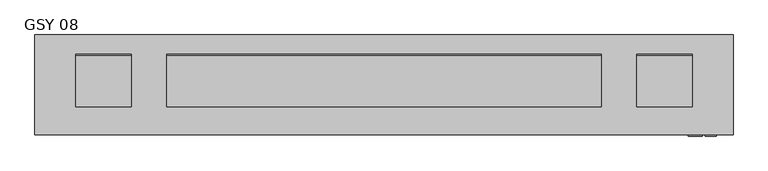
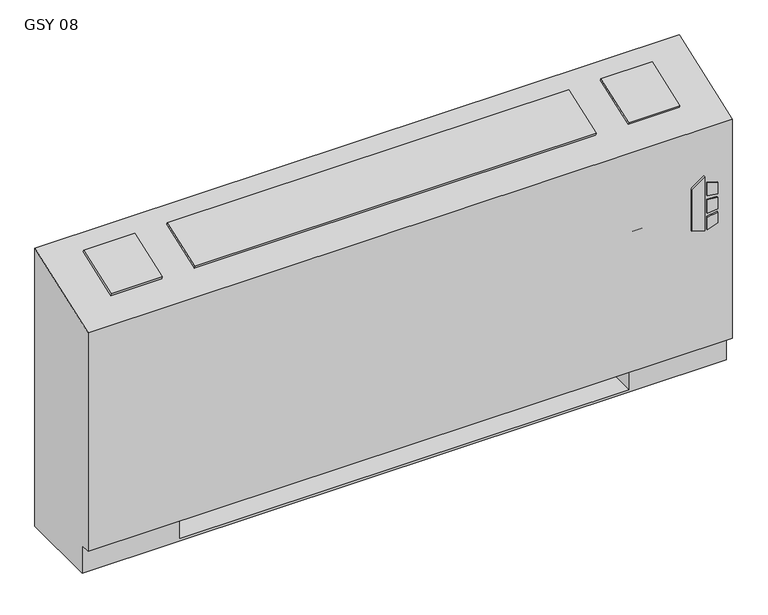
"""IFC4 building model written with IfcOpenShell, lengths in millimetres: proxy geometry, Vertical_Fan_Coil_Unit_-_GSY_-_IEC_-_2-Pipe_TS-FR_RH_2022 : GSY 08."""

import ifcopenshell
import ifcopenshell.guid

model = None  # the IFC model being written
_history = None  # IfcOwnerHistory: only IFC2X3 demands one
_inside = {}  # id of a spatial element -> (the spatial element, [elements in it])
_under = {}  # id of a project, library or spatial element -> (it, [spatial elements below it])
_declared = {}  # id of a project -> (the project, [libraries it declares])
_typed = {}  # id of a type object -> (the type object, [elements of that type])
_made_of = {}  # id of a material, layer set ... -> (it, [elements and type objects made of it])


def new_model(schema):
    """Start an empty IFC model of exactly this schema.

    Asked for "IFC4X3", IfcOpenShell would pick the latest addendum, in which some entities
    have other attributes; the version numbers below select the first issue.
    IFC2X3 requires an IfcOwnerHistory on every rooted entity: one is made here for all.
    """
    global model, _history
    if schema == "IFC4X3":
        model = ifcopenshell.file(schema_version=(4, 3, 0, 0))
    else:
        model = ifcopenshell.file(schema=schema)
    _inside.clear()
    _under.clear()
    _declared.clear()
    _typed.clear()
    _made_of.clear()
    _history = None
    if model.schema == "IFC2X3":
        org = make("IfcOrganization", Name="unknown")
        user = make(
            "IfcPersonAndOrganization",
            ThePerson=make("IfcPerson", FamilyName="unknown"),
            TheOrganization=org,
        )
        app = make(
            "IfcApplication",
            ApplicationDeveloper=org,
            Version="unknown",
            ApplicationFullName="unknown",
            ApplicationIdentifier="unknown",
        )
        _history = make(
            "IfcOwnerHistory",
            OwningUser=user,
            OwningApplication=app,
            ChangeAction="ADDED",
            CreationDate=0,
        )
    return model


def make(cls, **values):
    """One entity of the class cls with the attributes given. An attribute that is None is left unset."""
    return model.create_entity(
        cls, **{name: value for name, value in values.items() if value is not None}
    )


def rooted(cls, **values):
    """An entity with a GlobalId (a new one), such as an element, a storey or a relation."""
    return make(cls, GlobalId=ifcopenshell.guid.new(), OwnerHistory=_history, **values)


def si_unit(unit_type, name, prefix=None):
    """IfcSIUnit, for example si_unit("LENGTHUNIT", "METRE", prefix="MILLI")."""
    return make("IfcSIUnit", UnitType=unit_type, Prefix=prefix, Name=name)


def assignment(units):
    """IfcUnitAssignment: the units of a project."""
    return None if units is None else make("IfcUnitAssignment", Units=units)


def point(xyz):
    """IfcCartesianPoint."""
    return None if xyz is None else make("IfcCartesianPoint", Coordinates=xyz)


def direction(xyz):
    """IfcDirection."""
    return None if xyz is None else make("IfcDirection", DirectionRatios=xyz)


def frame(location, z_axis=None, x_axis=None):
    """IfcAxis2Placement3D, a coordinate frame: its origin and axes. An axis left out is left unset."""
    return make(
        "IfcAxis2Placement3D",
        Location=point(location),
        Axis=direction(z_axis),
        RefDirection=direction(x_axis),
    )


def frame_2d(location, x_axis=None):
    """IfcAxis2Placement2D, a coordinate frame in the plane: its origin and x axis."""
    return make(
        "IfcAxis2Placement2D", Location=point(location), RefDirection=direction(x_axis)
    )


def origin():
    """The frame at (0, 0, 0) with its axes left unset."""
    return frame((0.0, 0.0, 0.0))


def place(relative_to, where):
    """IfcLocalPlacement: puts the frame where relative to a parent placement (None: the world)."""
    return make(
        "IfcLocalPlacement", PlacementRelTo=relative_to, RelativePlacement=where
    )


def context(
    kind, dimensions, precision=None, world=None, true_north=None, identifier=None
):
    """IfcGeometricRepresentationContext, for example the 3D "Model" context."""
    return make(
        "IfcGeometricRepresentationContext",
        ContextIdentifier=identifier,
        ContextType=kind,
        CoordinateSpaceDimension=dimensions,
        Precision=precision,
        WorldCoordinateSystem=world,
        TrueNorth=true_north,
    )


def project(units=None, contexts=None):
    """IfcProject with its units and contexts."""
    return rooted(
        "IfcProject",
        Name="project",
        RepresentationContexts=contexts,
        UnitsInContext=assignment(units),
    )


def spatial(cls, under=None, at=None, **own):
    """A site, building, storey or space (cls), placed at a placement, below another one or the project."""
    s = rooted(cls, ObjectPlacement=at, **own)
    if under is not None:
        _under.setdefault(under.id(), (under, []))[1].append(s)
    return s


def polyline(points):
    """IfcPolyline through the points."""
    return make("IfcPolyline", Points=[point(p) for p in points])


def circle_curve(where, radius):
    """IfcCircle in the frame where."""
    return make("IfcCircle", Position=where, Radius=radius)


def trimmed(basis, trim1, trim2, sense, master):
    """IfcTrimmedCurve: the piece of a basis curve between two trims."""
    return make(
        "IfcTrimmedCurve",
        BasisCurve=basis,
        Trim1=trim1,
        Trim2=trim2,
        SenseAgreement=sense,
        MasterRepresentation=master,
    )


def segment(curve, same_sense, transition):
    """IfcCompositeCurveSegment."""
    return make(
        "IfcCompositeCurveSegment",
        Transition=transition,
        SameSense=same_sense,
        ParentCurve=curve,
    )


def composite_curve(segments, self_intersect=None):
    """IfcCompositeCurve: segments joined end to end."""
    return make("IfcCompositeCurve", Segments=segments, SelfIntersect=self_intersect)


def outline(outer, holes=None, kind="AREA"):
    """IfcArbitraryClosedProfileDef: a profile drawn as a closed curve; with holes, ...WithVoids."""
    if holes is None:
        return make("IfcArbitraryClosedProfileDef", ProfileType=kind, OuterCurve=outer)
    return make(
        "IfcArbitraryProfileDefWithVoids",
        ProfileType=kind,
        OuterCurve=outer,
        InnerCurves=holes,
    )


def extrude(swept, where, along, depth):
    """IfcExtrudedAreaSolid: the profile swept, set in the frame where, extruded along a direction by depth."""
    return make(
        "IfcExtrudedAreaSolid",
        SweptArea=swept,
        Position=where,
        ExtrudedDirection=direction(along),
        Depth=depth,
    )


def shape(context_of_items, identifier, shape_type, items):
    """IfcShapeRepresentation: the items that make up one representation, for example the "Body"."""
    return make(
        "IfcShapeRepresentation",
        ContextOfItems=context_of_items,
        RepresentationIdentifier=identifier,
        RepresentationType=shape_type,
        Items=items,
    )


def source(mapping_origin, context_of_items, identifier, shape_type, items):
    """IfcRepresentationMap: a shape defined once, which mapped items show again and again."""
    return make(
        "IfcRepresentationMap",
        MappingOrigin=mapping_origin,
        MappedRepresentation=shape(context_of_items, identifier, shape_type, items),
    )


def transform(
    local_origin,
    x_axis=None,
    y_axis=None,
    z_axis=None,
    scale=None,
    scale2=None,
    scale3=None,
    uniform=True,
):
    """IfcCartesianTransformationOperator3D, or its non-uniform kind. x_axis, y_axis, z_axis: its Axis1, 2, 3."""
    if uniform:
        return make(
            "IfcCartesianTransformationOperator3D",
            Axis1=direction(x_axis),
            Axis2=direction(y_axis),
            LocalOrigin=point(local_origin),
            Scale=scale,
            Axis3=direction(z_axis),
        )
    return make(
        "IfcCartesianTransformationOperator3DnonUniform",
        Axis1=direction(x_axis),
        Axis2=direction(y_axis),
        LocalOrigin=point(local_origin),
        Scale=scale,
        Axis3=direction(z_axis),
        Scale2=scale2,
        Scale3=scale3,
    )


def mapped(mapping_source, mapping_target):
    """IfcMappedItem: shows the shape of a source again, moved by a transform."""
    return make(
        "IfcMappedItem", MappingSource=mapping_source, MappingTarget=mapping_target
    )


def made_of(thing, what):
    """Note that an element or type object is made of a material, layer set ...; save() writes the relation."""
    if what is not None:
        _made_of.setdefault(what.id(), (what, []))[1].append(thing)
    return thing


def element(
    cls,
    number,
    at=None,
    inside=None,
    cuts=None,
    type_object=None,
    material=None,
    context=None,
    identifier="Body",
    shape_type=None,
    held_by="IfcProductDefinitionShape",
    body=None,
    shapes=None,
    **own,
):
    """One element of the class cls, such as IfcWall. Its Tag is "e" and its number.

    at: its placement. inside: the storey or other place that contains it. cuts: it is an
    opening in that element (IfcRelVoidsElement). A single representation is given by context,
    identifier, shape_type and body (its items); several are given by shapes. held_by: the class
    of the entity that holds the representations. save() writes the other relations.
    """
    e = rooted(cls, Tag="e%d" % number, ObjectPlacement=at, **own)
    if body is not None:
        shapes = [shape(context, identifier, shape_type, body)]
    if shapes is not None:
        e.Representation = make(held_by, Representations=shapes)
    if inside is not None:
        _inside.setdefault(inside.id(), (inside, []))[1].append(e)
    if cuts is not None:
        rooted(
            "IfcRelVoidsElement", RelatingBuildingElement=cuts, RelatedOpeningElement=e
        )
    if type_object is not None:
        _typed.setdefault(type_object.id(), (type_object, []))[1].append(e)
    return made_of(e, material)


def aggregate(whole, parts):
    """IfcRelAggregates: a whole, such as a stair, and the parts it consists of."""
    return rooted("IfcRelAggregates", RelatingObject=whole, RelatedObjects=parts)


def save(model, path):
    """Write the relations noted so far, then the file.

    IfcRelAggregates (storeys below a building ...), IfcRelContainedInSpatialStructure (elements
    in a storey), IfcRelDefinesByType, IfcRelAssociatesMaterial and IfcRelDeclares: one each for
    every whole, place, type object, material and project.
    """
    for whole, parts in _under.values():
        aggregate(whole, parts)
    for where, things in _inside.values():
        rooted(
            "IfcRelContainedInSpatialStructure",
            RelatedElements=things,
            RelatingStructure=where,
        )
    for kind, things in _typed.values():
        rooted("IfcRelDefinesByType", RelatedObjects=things, RelatingType=kind)
    for what, things in _made_of.values():
        rooted("IfcRelAssociatesMaterial", RelatedObjects=things, RelatingMaterial=what)
    for by, libraries in _declared.values():
        rooted("IfcRelDeclares", RelatingContext=by, RelatedDefinitions=libraries)
    model.write(path)


def plane_surface(at):
    """IfcPlane: the flat surface through the origin of the frame at, square to its z axis."""
    return make("IfcPlane", Position=at)


def revolved_surface(curve, axis_point, axis_direction):
    """IfcSurfaceOfRevolution: the curve turned about the line through axis_point along axis_direction."""
    return make(
        "IfcSurfaceOfRevolution",
        SweptCurve=make("IfcArbitraryOpenProfileDef", ProfileType="CURVE", Curve=curve),
        AxisPosition=make("IfcAxis1Placement", Location=point(axis_point), Axis=direction(axis_direction)),
    )


def advanced_brep(points, edges, surfaces, faces):
    """IfcAdvancedBrep: a solid bounded by faces that lie on surfaces and meet in shared edges.

    An edge is (start, end): straight between two places in points (the first is 0);
    or (start, end, curve); or (start, end, curve, False) where it runs against its curve.
    A face is (place in surfaces, loops), or (place, loops, False) where it looks against
    its surface's normal. A loop lists edges by number (the first is 1), with a minus sign
    where the edge is run from its end to its start. The first loop is the outer one.
    """
    corners = [point(p) for p in points]
    vertices = [make("IfcVertexPoint", VertexGeometry=c) for c in corners]
    made = []
    for start, end, *more in edges:
        made.append(
            make(
                "IfcEdgeCurve",
                EdgeStart=vertices[start],
                EdgeEnd=vertices[end],
                EdgeGeometry=more[0] if more else make("IfcPolyline", Points=[corners[start], corners[end]]),
                SameSense=more[1] if len(more) > 1 else True,
            )
        )
    hull = []
    for where, loops, *sense in faces:
        bounds = []
        for j, loop in enumerate(loops):
            ring = [make("IfcOrientedEdge", EdgeElement=made[abs(k) - 1], Orientation=k > 0) for k in loop]
            bounds.append(
                make(
                    "IfcFaceOuterBound" if j == 0 else "IfcFaceBound",
                    Bound=make("IfcEdgeLoop", EdgeList=ring),
                    Orientation=True,
                )
            )
        hull.append(make("IfcAdvancedFace", Bounds=bounds, FaceSurface=surfaces[where], SameSense=sense[0] if sense else True))
    return make("IfcAdvancedBrep", Outer=make("IfcClosedShell", CfsFaces=hull))


def gsy_08_d9f7d4bb(model_context):
    return source(origin(), model_context, "Body", "SolidModel", [
        extrude(outline(polyline([(391.6086829, 849.3868862), (381.6606126, 881.5602728), (523.831537, 881.5602728), (500.8095309, 849.3868862), (391.6086829, 849.3868862)])), frame((0.0, 12.7, 0.0), z_axis=(0.0, 1.0, 0.0), x_axis=(0.0, 0.0, 1.0)), (0.0, 0.0, 1.0), 3.175),
        extrude(outline(polyline([(470.6079683, 888.3186058), (467.4055757, 914.4), (496.6344168, 914.4), (504.6988318, 888.3186058), (470.6079683, 888.3186058)])), frame((0.0, 12.7, 0.0), z_axis=(0.0, 1.0, 0.0), x_axis=(0.0, 0.0, 1.0)), (0.0, 0.0, 1.0), 3.175),
        extrude(outline(polyline([(418.7444414, 914.4), (415.0789404, 888.3186058), (381.6606126, 888.3186058), (390.2948498, 914.4), (418.7444414, 914.4)])), frame((0.0, 12.7, 0.0), z_axis=(0.0, 1.0, 0.0), x_axis=(0.0, 0.0, 1.0)), (0.0, 0.0, 1.0), 3.175),
        extrude(outline(polyline([(458.0596028, 914.4), (460.3414292, 888.3186058), (424.4038806, 888.3186058), (427.1451456, 914.4), (458.0596028, 914.4)])), frame((0.0, 12.7, 0.0), z_axis=(0.0, 1.0, 0.0), x_axis=(0.0, 0.0, 1.0)), (0.0, 0.0, 1.0), 3.175),
        extrude(outline(polyline([(0.0, -126.2347031), (0.0, 0.0), (127.0, 0.0), (127.0, -126.2347031), (0.0, -126.2347031)])), frame((-553.593, 200.4217127, 714.3418685), z_axis=(0.0, -0.33964446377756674, 0.9405538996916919), x_axis=(1.0, 0.0, 0.0)), (0.0, 0.0, 1.0), 6.35),
        extrude(outline(polyline([(0.0, -126.2347031), (0.0, 0.0), (996.95, 0.0), (996.95, -126.2347031), (0.0, -126.2347031)])), frame((650.875, 81.6911704, 671.4669504), z_axis=(0.0, -0.3396444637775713, 0.9405538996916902), x_axis=(-1.0, 0.0, 0.0)), (0.0, 0.0, 1.0), 6.35),
        extrude(outline(polyline([(0.0, -126.2347031), (0.0, 0.0), (127.0, 0.0), (127.0, -126.2347031), (0.0, -126.2347031)])), frame((858.393, 81.6911704, 671.4669504), z_axis=(0.0, -0.3396444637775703, 0.9405538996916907), x_axis=(-1.0, 0.0, 0.0)), (0.0, 0.0, 1.0), 6.35),
        extrude(outline(polyline([(-527.05, 81.534), (-527.05, 223.266), (-127.0, 223.266), (-127.0, 81.534), (-527.05, 81.534)])), frame((0.0, 0.0, 327.025), z_axis=(0.0, 0.0, 1.0), x_axis=(1.0, 0.0, 0.0)), (0.0, 0.0, 1.0), 260.35),
        extrude(outline(composite_curve([segment(trimmed(circle_curve(frame_2d((80.645, 397.002)), 7.9375), [point((80.645, 404.9395))], [point((80.645, 389.0645))], False, "CARTESIAN"), True, "CONTINUOUS"), segment(trimmed(circle_curve(frame_2d((80.645, 397.002)), 7.9375), [point((80.645, 389.0645))], [point((80.645, 404.9395))], False, "CARTESIAN"), True, "CONTINUOUS")], self_intersect=False)), frame((711.2, 0.0, 0.0), z_axis=(1.0, 0.0, 0.0), x_axis=(0.0, 1.0, 0.0)), (0.0, 0.0, 1.0), 50.8),
        extrude(outline(composite_curve([segment(trimmed(circle_curve(frame_2d((156.8958, 535.8892)), 7.9375), [point((156.8958, 543.8267))], [point((156.8958, 527.9517))], False, "CARTESIAN"), True, "CONTINUOUS"), segment(trimmed(circle_curve(frame_2d((156.8958, 535.8892)), 7.9375), [point((156.8958, 527.9517))], [point((156.8958, 543.8267))], False, "CARTESIAN"), True, "CONTINUOUS")], self_intersect=False)), frame((711.2, 0.0, 0.0), z_axis=(1.0, 0.0, 0.0), x_axis=(0.0, 1.0, 0.0)), (0.0, 0.0, 1.0), 50.8),
        advanced_brep(
        [(-647.7, 244.475, 0.0), (952.5, 244.475, 0.0), (952.5, 41.275, 0.0), (-647.7, 41.275, 0.0), (-647.7, 244.475, 730.25), (952.5, 244.475, 730.25), (711.2, 244.475, 73.025), (939.8, 244.475, 73.025), (939.8, 244.475, 654.05), (711.2, 244.475, 654.05), (711.2, 244.475, 414.8650565), (739.775, 244.475, 414.8650565), (739.775, 244.475, 385.2349435), (711.2, 244.475, 385.2349435), (711.2, 244.475, 287.3375), (739.775, 244.475, 287.3375), (739.775, 244.475, 258.7625), (711.2, 244.475, 258.7625), (711.2, 244.475, 141.2875), (739.775, 244.475, 141.2875), (739.775, 244.475, 112.7125), (711.2, 244.475, 112.7125), (-406.4, 244.475, 654.05), (-635.0, 244.475, 654.05), (-635.0, 244.475, 73.025), (-406.4, 244.475, 73.025), (-406.4, 244.475, 112.7125), (-434.975, 244.475, 112.7125), (-434.975, 244.475, 141.2875), (-406.4, 244.475, 141.2875), (-406.4, 244.475, 258.7625), (-434.975, 244.475, 258.7625), (-434.975, 244.475, 287.3375), (-406.4, 244.475, 287.3375), (-406.4, 244.475, 385.2349435), (-434.975, 244.475, 385.2349435), (-434.975, 244.475, 414.8650565), (-406.4, 244.475, 414.8650565), (729.4626, 244.475, 127.0), (718.3374, 244.475, 127.0), (729.4626, 244.475, 400.05), (718.3374, 244.475, 400.05), (729.4626, 244.475, 273.05), (718.3374, 244.475, 273.05), (-413.5374, 244.475, 127.0), (-424.6626, 244.475, 127.0), (-413.5374, 244.475, 273.05), (-424.6626, 244.475, 273.05), (-413.5374, 244.475, 400.05), (-424.6626, 244.475, 400.05), (-647.7, 41.275, 73.025), (-647.7, 15.875, 73.025), (-647.7, 15.875, 647.7), (952.5, 15.875, 73.025), (952.5, 15.875, 647.7), (952.5, 41.275, 73.025), (-406.4, 41.275, 73.025), (-406.4, 225.425, 73.025), (711.2, 225.425, 73.025), (711.2, 41.275, 73.025), (711.2, 41.275, 6.35), (-406.4, 41.275, 6.35), (711.2, 41.275, 654.05), (939.8, 41.275, 654.05), (939.8, 41.275, 73.025), (711.2, 41.275, 73.025), (-406.4, 41.275, 654.05), (-406.4, 41.275, 73.025), (-635.0, 41.275, 73.025), (-635.0, 41.275, 654.05), (711.2, 225.425, 73.025), (711.2, 238.125, 112.7125), (711.2, 238.125, 141.2875), (711.2, 238.125, 258.7625), (711.2, 238.125, 287.3375), (711.2, 238.125, 385.2349435), (711.2, 238.125, 414.8650565), (-406.4, 225.425, 73.025), (-406.4, 238.125, 414.8650565), (-406.4, 238.125, 385.2349435), (-406.4, 238.125, 287.3375), (-406.4, 238.125, 258.7625), (-406.4, 238.125, 141.2875), (-406.4, 238.125, 112.7125), (-406.4, 225.425, 6.35), (711.2, 225.425, 6.35), (739.775, 238.125, 112.7125), (739.775, 238.125, 141.2875), (718.3374, 238.125, 127.0), (729.4626, 238.125, 127.0), (739.775, 238.125, 258.7625), (739.775, 238.125, 287.3375), (718.3374, 238.125, 273.05), (729.4626, 238.125, 273.05), (739.775, 238.125, 385.2349435), (739.775, 238.125, 414.8650565), (718.3374, 238.125, 400.05), (729.4626, 238.125, 400.05), (-434.975, 238.125, 141.2875), (-434.975, 238.125, 112.7125), (-424.6626, 238.125, 127.0), (-413.5374, 238.125, 127.0), (-434.975, 238.125, 287.3375), (-434.975, 238.125, 258.7625), (-424.6626, 238.125, 273.05), (-413.5374, 238.125, 273.05), (-434.975, 238.125, 414.8650565), (-434.975, 238.125, 385.2349435), (-424.6626, 238.125, 400.05), (-413.5374, 238.125, 400.05)],
        [
            (0, 1),
            (1, 2),
            (2, 3),
            (3, 0),
            (0, 4),
            (4, 5),
            (5, 1),
            (6, 7),
            (7, 8),
            (8, 9),
            (9, 10),
            (10, 11),
            (11, 12),
            (12, 13),
            (13, 14),
            (14, 15),
            (15, 16),
            (16, 17),
            (17, 18),
            (18, 19),
            (19, 20),
            (20, 21),
            (21, 6),
            (22, 23),
            (23, 24),
            (24, 25),
            (25, 26),
            (26, 27),
            (27, 28),
            (28, 29),
            (29, 30),
            (30, 31),
            (31, 32),
            (32, 33),
            (33, 34),
            (34, 35),
            (35, 36),
            (36, 37),
            (37, 22),
            (38, 39, circle_curve(frame((723.9, 244.475, 127.0), z_axis=(0.0, -1.0, 0.0), x_axis=(-1.0, 0.0, 0.0)), 5.5626)),
            (39, 38, circle_curve(frame((723.9, 244.475, 127.0), z_axis=(0.0, -1.0, 0.0), x_axis=(-1.0, 0.0, 0.0)), 5.5626)),
            (40, 41, circle_curve(frame((723.9, 244.475, 400.05), z_axis=(0.0, -1.0, 0.0), x_axis=(-1.0, 0.0, 0.0)), 5.5626)),
            (41, 40, circle_curve(frame((723.9, 244.475, 400.05), z_axis=(0.0, -1.0, 0.0), x_axis=(-1.0, 0.0, 0.0)), 5.5626)),
            (42, 43, circle_curve(frame((723.9, 244.475, 273.05), z_axis=(0.0, -1.0, 0.0), x_axis=(-1.0, 0.0, 0.0)), 5.5626)),
            (43, 42, circle_curve(frame((723.9, 244.475, 273.05), z_axis=(0.0, -1.0, 0.0), x_axis=(-1.0, 0.0, 0.0)), 5.5626)),
            (44, 45, circle_curve(frame((-419.1, 244.475, 127.0), z_axis=(0.0, -1.0, 0.0), x_axis=(-1.0, 0.0, 0.0)), 5.5626)),
            (45, 44, circle_curve(frame((-419.1, 244.475, 127.0), z_axis=(0.0, -1.0, 0.0), x_axis=(-1.0, 0.0, 0.0)), 5.5626)),
            (46, 47, circle_curve(frame((-419.1, 244.475, 273.05), z_axis=(0.0, -1.0, 0.0), x_axis=(-1.0, 0.0, 0.0)), 5.5626)),
            (47, 46, circle_curve(frame((-419.1, 244.475, 273.05), z_axis=(0.0, -1.0, 0.0), x_axis=(-1.0, 0.0, 0.0)), 5.5626)),
            (48, 49, circle_curve(frame((-419.1, 244.475, 400.05), z_axis=(0.0, -1.0, 0.0), x_axis=(-1.0, 0.0, 0.0)), 5.5626)),
            (49, 48, circle_curve(frame((-419.1, 244.475, 400.05), z_axis=(0.0, -1.0, 0.0), x_axis=(-1.0, 0.0, 0.0)), 5.5626)),
            (3, 50),
            (50, 51),
            (51, 52),
            (52, 4),
            (51, 53),
            (53, 54),
            (54, 52),
            (5, 54),
            (53, 55),
            (55, 2),
            (50, 56),
            (56, 57),
            (57, 58),
            (58, 59),
            (59, 55),
            (59, 60),
            (60, 61),
            (61, 56),
            (62, 63),
            (63, 64),
            (64, 65),
            (65, 62),
            (66, 67),
            (67, 68),
            (68, 69),
            (69, 66),
            (65, 70),
            (70, 6),
            (21, 71),
            (71, 72),
            (72, 18),
            (17, 73),
            (73, 74),
            (74, 14),
            (13, 75),
            (75, 76),
            (76, 10),
            (9, 62),
            (64, 7),
            (63, 8),
            (69, 23),
            (22, 66),
            (68, 24),
            (67, 77),
            (77, 25),
            (37, 78),
            (78, 79),
            (79, 34),
            (33, 80),
            (80, 81),
            (81, 30),
            (29, 82),
            (82, 83),
            (83, 26),
            (57, 84),
            (84, 85),
            (85, 58),
            (85, 60),
            (84, 61),
            (71, 86),
            (86, 87),
            (87, 72),
            (88, 89, circle_curve(frame((723.9, 238.125, 127.0), z_axis=(0.0, 1.0, 0.0), x_axis=(-1.0, 0.0, 0.0)), 5.5626)),
            (89, 88, circle_curve(frame((723.9, 238.125, 127.0), z_axis=(0.0, 1.0, 0.0), x_axis=(-1.0, 0.0, 0.0)), 5.5626)),
            (73, 90),
            (90, 91),
            (91, 74),
            (92, 93, circle_curve(frame((723.9, 238.125, 273.05), z_axis=(0.0, 1.0, 0.0), x_axis=(-1.0, 0.0, 0.0)), 5.5626)),
            (93, 92, circle_curve(frame((723.9, 238.125, 273.05), z_axis=(0.0, 1.0, 0.0), x_axis=(-1.0, 0.0, 0.0)), 5.5626)),
            (75, 94),
            (94, 95),
            (95, 76),
            (96, 97, circle_curve(frame((723.9, 238.125, 400.05), z_axis=(0.0, 1.0, 0.0), x_axis=(-1.0, 0.0, 0.0)), 5.5626)),
            (97, 96, circle_curve(frame((723.9, 238.125, 400.05), z_axis=(0.0, 1.0, 0.0), x_axis=(-1.0, 0.0, 0.0)), 5.5626)),
            (98, 99),
            (99, 83),
            (82, 98),
            (100, 101, circle_curve(frame((-419.1, 238.125, 127.0), z_axis=(0.0, 1.0, 0.0), x_axis=(-1.0, 0.0, 0.0)), 5.5626)),
            (101, 100, circle_curve(frame((-419.1, 238.125, 127.0), z_axis=(0.0, 1.0, 0.0), x_axis=(-1.0, 0.0, 0.0)), 5.5626)),
            (102, 103),
            (103, 81),
            (80, 102),
            (104, 105, circle_curve(frame((-419.1, 238.125, 273.05), z_axis=(0.0, 1.0, 0.0), x_axis=(-1.0, 0.0, 0.0)), 5.5626)),
            (105, 104, circle_curve(frame((-419.1, 238.125, 273.05), z_axis=(0.0, 1.0, 0.0), x_axis=(-1.0, 0.0, 0.0)), 5.5626)),
            (106, 107),
            (107, 79),
            (78, 106),
            (108, 109, circle_curve(frame((-419.1, 238.125, 400.05), z_axis=(0.0, 1.0, 0.0), x_axis=(-1.0, 0.0, 0.0)), 5.5626)),
            (109, 108, circle_curve(frame((-419.1, 238.125, 400.05), z_axis=(0.0, 1.0, 0.0), x_axis=(-1.0, 0.0, 0.0)), 5.5626)),
            (87, 19),
            (86, 20),
            (91, 15),
            (90, 16),
            (95, 11),
            (94, 12),
            (28, 98),
            (99, 27),
            (32, 102),
            (103, 31),
            (36, 106),
            (107, 35),
            (88, 39),
            (38, 89),
            (96, 41),
            (40, 97),
            (92, 43),
            (42, 93),
            (100, 45),
            (44, 101),
            (104, 47),
            (46, 105),
            (108, 49),
            (48, 109),
        ],
        [
            plane_surface(frame((-647.7, 244.475, 0.0), z_axis=(0.0, 0.0, -1.0), x_axis=(1.0, 0.0, 0.0))),
            plane_surface(frame((952.5, 244.475, 730.25), z_axis=(0.0, 1.0, 0.0), x_axis=(0.0, 0.0, -1.0))),
            plane_surface(frame((-647.7, 244.475, 730.25), z_axis=(-1.0, 0.0, 0.0), x_axis=(0.0, 0.0, -1.0))),
            plane_surface(frame((-647.7, 15.875, 730.25), z_axis=(0.0, -1.0, 0.0), x_axis=(0.0, 0.0, -1.0))),
            plane_surface(frame((952.5, 15.875, 730.25), z_axis=(1.0, 0.0, 0.0), x_axis=(0.0, 0.0, -1.0))),
            plane_surface(frame((-647.7, 15.875, 73.025), z_axis=(0.0, 0.0, -1.0), x_axis=(1.0, 0.0, 0.0))),
            plane_surface(frame((-647.7, 41.275, 73.025), z_axis=(0.0, -1.0, 0.0), x_axis=(1.0, 0.0, 0.0))),
            plane_surface(frame((711.2, 41.275, 654.05), z_axis=(0.0, 1.0, 0.0), x_axis=(0.0, 0.0, -1.0))),
            plane_surface(frame((711.2, 41.275, 654.05), z_axis=(1.0, 0.0, 0.0), x_axis=(0.0, 1.0, 0.0))),
            plane_surface(frame((711.2, 41.275, 73.025), z_axis=(0.0, 0.0, 1.0), x_axis=(0.0, 1.0, 0.0))),
            plane_surface(frame((939.8, 41.275, 73.025), z_axis=(-1.0, 0.0, 0.0), x_axis=(0.0, 1.0, 0.0))),
            plane_surface(frame((939.8, 41.275, 654.05), z_axis=(0.0, 0.0, -1.0), x_axis=(0.0, 1.0, 0.0))),
            plane_surface(frame((-406.4, 41.275, 654.05), z_axis=(0.0, 0.0, -1.0), x_axis=(0.0, 1.0, 0.0))),
            plane_surface(frame((-635.0, 41.275, 654.05), z_axis=(1.0, 0.0, 0.0), x_axis=(0.0, 1.0, 0.0))),
            plane_surface(frame((-635.0, 41.275, 73.025), z_axis=(0.0, 0.0, 1.0), x_axis=(0.0, 1.0, 0.0))),
            plane_surface(frame((-406.4, 41.275, 73.025), z_axis=(-1.0, 0.0, 0.0), x_axis=(0.0, 1.0, 0.0))),
            plane_surface(frame((711.2, 225.425, 73.025), z_axis=(0.0, -1.0, 0.0), x_axis=(0.0, 0.0, -1.0))),
            plane_surface(frame((711.2, 225.425, 73.025), z_axis=(-1.0, 0.0, 0.0), x_axis=(0.0, -1.0, 0.0))),
            plane_surface(frame((711.2, 225.425, 6.35), z_axis=(0.0, 0.0, 1.0), x_axis=(0.0, -1.0, 0.0))),
            plane_surface(frame((-406.4, 225.425, 6.35), z_axis=(1.0, 0.0, 0.0), x_axis=(0.0, -1.0, 0.0))),
            plane_surface(frame((739.775, 238.125, 141.2875), z_axis=(0.0, -1.0, 0.0), x_axis=(-1.0, 0.0, 0.0))),
            plane_surface(frame((711.2, 244.475, 141.2875), z_axis=(0.0, 0.0, 1.0), x_axis=(0.0, -1.0, 0.0))),
            plane_surface(frame((739.775, 244.475, 141.2875), z_axis=(1.0, 0.0, 0.0), x_axis=(0.0, -1.0, 0.0))),
            plane_surface(frame((739.775, 244.475, 112.7125), z_axis=(0.0, 0.0, -1.0), x_axis=(0.0, -1.0, 0.0))),
            plane_surface(frame((711.2, 244.475, 287.3375), z_axis=(0.0, 0.0, 1.0), x_axis=(0.0, -1.0, 0.0))),
            plane_surface(frame((739.775, 244.475, 287.3375), z_axis=(1.0, 0.0, 0.0), x_axis=(0.0, -1.0, 0.0))),
            plane_surface(frame((739.775, 244.475, 258.7625), z_axis=(0.0, 0.0, -1.0), x_axis=(0.0, -1.0, 0.0))),
            plane_surface(frame((711.2, 244.475, 414.8650565), z_axis=(0.0, 0.0, 1.0), x_axis=(0.0, -1.0, 0.0))),
            plane_surface(frame((739.775, 244.475, 414.8650565), z_axis=(1.0, 0.0, 0.0), x_axis=(0.0, -1.0, 0.0))),
            plane_surface(frame((739.775, 244.475, 385.2349435), z_axis=(0.0, 0.0, -1.0), x_axis=(0.0, -1.0, 0.0))),
            plane_surface(frame((-434.975, 244.475, 141.2875), z_axis=(0.0, 0.0, 1.0), x_axis=(0.0, -1.0, 0.0))),
            plane_surface(frame((-406.4, 244.475, 112.7125), z_axis=(0.0, 0.0, -1.0), x_axis=(0.0, -1.0, 0.0))),
            plane_surface(frame((-434.975, 244.475, 112.7125), z_axis=(-1.0, 0.0, 0.0), x_axis=(0.0, -1.0, 0.0))),
            plane_surface(frame((-434.975, 244.475, 287.3375), z_axis=(0.0, 0.0, 1.0), x_axis=(0.0, -1.0, 0.0))),
            plane_surface(frame((-406.4, 244.475, 258.7625), z_axis=(0.0, 0.0, -1.0), x_axis=(0.0, -1.0, 0.0))),
            plane_surface(frame((-434.975, 244.475, 258.7625), z_axis=(-1.0, 0.0, 0.0), x_axis=(0.0, -1.0, 0.0))),
            plane_surface(frame((-434.975, 244.475, 414.8650565), z_axis=(0.0, 0.0, 1.0), x_axis=(0.0, -1.0, 0.0))),
            plane_surface(frame((-406.4, 244.475, 385.2349435), z_axis=(0.0, 0.0, -1.0), x_axis=(0.0, -1.0, 0.0))),
            plane_surface(frame((-434.975, 244.475, 385.2349435), z_axis=(-1.0, 0.0, 0.0), x_axis=(0.0, -1.0, 0.0))),
            revolved_surface(polyline([(718.3374, 238.125, 127.0), (718.3374, 244.475, 127.0)]), (723.9, 244.475, 127.0), (0.0, -1.0, 0.0)),
            revolved_surface(polyline([(718.3374, 238.125, 400.05), (718.3374, 244.475, 400.05)]), (723.9, 244.475, 400.05), (0.0, -1.0, 0.0)),
            revolved_surface(polyline([(718.3374, 238.125, 273.05), (718.3374, 244.475, 273.05)]), (723.9, 244.475, 273.05), (0.0, -1.0, 0.0)),
            revolved_surface(polyline([(-424.6626, 238.125, 127.0), (-424.6626, 244.475, 127.0)]), (-419.1, 244.475, 127.0), (0.0, -1.0, 0.0)),
            revolved_surface(polyline([(-424.6626, 238.125, 273.05), (-424.6626, 244.475, 273.05)]), (-419.1, 244.475, 273.05), (0.0, -1.0, 0.0)),
            revolved_surface(polyline([(-424.6626, 238.125, 400.05), (-424.6626, 244.475, 400.05)]), (-419.1, 244.475, 400.05), (0.0, -1.0, 0.0)),
            plane_surface(frame((-647.7, 244.475, 730.25), z_axis=(0.0, -0.33964446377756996, 0.9405538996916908), x_axis=(1.0, 0.0, 0.0))),
        ],
        [
            (0, [[1, 2, 3, 4]]),
            (1, [[-1, 5, 6, 7], [8, 9, 10, 11, 12, 13, 14, 15, 16, 17, 18, 19, 20, 21, 22, 23], [24, 25, 26, 27, 28, 29, 30, 31, 32, 33, 34, 35, 36, 37, 38, 39], [40, 41], [42, 43], [44, 45], [46, 47], [48, 49], [50, 51]]),
            (2, [[-5, -4, 52, 53, 54, 55]]),
            (3, [[56, 57, 58, -54]]),
            (4, [[-7, 59, -57, 60, 61, -2]]),
            (5, [[-53, 62, 63, 64, 65, 66, -60, -56]]),
            (6, [[-3, -61, -66, 67, 68, 69, -62, -52]]),
            (7, [[70, 71, 72, 73]]),
            (7, [[74, 75, 76, 77]]),
            (8, [[-73, 78, 79, -23, 80, 81, 82, -19, 83, 84, 85, -15, 86, 87, 88, -11, 89]]),
            (9, [[-72, 90, -8, -79, -78]]),
            (10, [[-71, 91, -9, -90]]),
            (11, [[-70, -89, -10, -91]]),
            (12, [[-77, 92, -24, 93]]),
            (13, [[-76, 94, -25, -92]]),
            (14, [[-75, 95, 96, -26, -94]]),
            (15, [[-74, -93, -39, 97, 98, 99, -35, 100, 101, 102, -31, 103, 104, 105, -27, -96, -95]]),
            (16, [[-64, 106, 107, 108]]),
            (17, [[-108, 109, -67, -65]]),
            (18, [[-107, 110, -68, -109]]),
            (19, [[-106, -63, -69, -110]]),
            (20, [[111, 112, 113, -81], [114, 115]]),
            (20, [[116, 117, 118, -84], [119, 120]]),
            (20, [[121, 122, 123, -87], [124, 125]]),
            (20, [[126, 127, -104, 128], [129, 130]]),
            (20, [[131, 132, -101, 133], [134, 135]]),
            (20, [[136, 137, -98, 138], [139, 140]]),
            (21, [[-113, 141, -20, -82]]),
            (22, [[-112, 142, -21, -141]]),
            (23, [[-111, -80, -22, -142]]),
            (24, [[-118, 143, -16, -85]]),
            (25, [[-117, 144, -17, -143]]),
            (26, [[-116, -83, -18, -144]]),
            (27, [[-123, 145, -12, -88]]),
            (28, [[-122, 146, -13, -145]]),
            (29, [[-121, -86, -14, -146]]),
            (30, [[-128, -103, -30, 147]]),
            (31, [[-127, 148, -28, -105]]),
            (32, [[-126, -147, -29, -148]]),
            (33, [[-133, -100, -34, 149]]),
            (34, [[-132, 150, -32, -102]]),
            (35, [[-131, -149, -33, -150]]),
            (36, [[-138, -97, -38, 151]]),
            (37, [[-137, 152, -36, -99]]),
            (38, [[-136, -151, -37, -152]]),
            (39, [[153, -40, 154, -114]]),
            (39, [[-153, -115, -154, -41]]),
            (40, [[155, -42, 156, -124]]),
            (40, [[-155, -125, -156, -43]]),
            (41, [[157, -44, 158, -119]]),
            (41, [[-157, -120, -158, -45]]),
            (42, [[159, -46, 160, -129]]),
            (42, [[-159, -130, -160, -47]]),
            (43, [[161, -48, 162, -134]]),
            (43, [[-161, -135, -162, -49]]),
            (44, [[163, -50, 164, -139]]),
            (44, [[-163, -140, -164, -51]]),
            (45, [[-6, -55, -58, -59]]),
        ],
    ),
    ])


if __name__ == "__main__":
    model = new_model("IFC4")
    model_context = context("Model", 3, world=origin())
    ifc_project = project(units=[si_unit("LENGTHUNIT", "METRE", prefix="MILLI")], contexts=[model_context])
    site = spatial("IfcSite", under=ifc_project)
    building = spatial("IfcBuilding", under=site)
    placement = place(None, origin())
    gsy_08_shape = gsy_08_d9f7d4bb(model_context)
    element("IfcBuildingElementProxy", 1, Name="Vertical_Fan_Coil_Unit_-_GSY_-_IEC_-_2-Pipe_TS-FR_RH_2022 : GSY 08", ObjectType="Vertical_Fan_Coil_Unit_-_GSY_-_IEC_-_2-Pipe_TS-FR_RH_2022 : GSY 08", at=placement, inside=building, context=model_context, shape_type="MappedRepresentation", body=[
        mapped(gsy_08_shape, transform((0.0, 0.0, 0.0), x_axis=(1.0, 0.0, 0.0), y_axis=(0.0, 1.0, 0.0), z_axis=(0.0, 0.0, 1.0))),
    ])
    save(model, "model.ifc")
